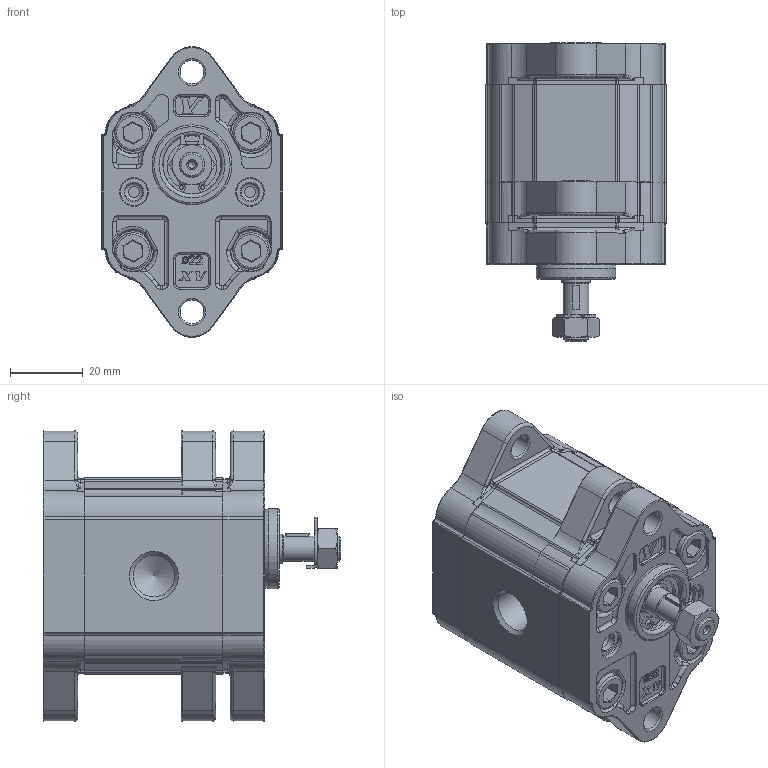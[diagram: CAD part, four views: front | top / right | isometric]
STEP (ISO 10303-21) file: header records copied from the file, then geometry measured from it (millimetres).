
FILE_DESCRIPTION( ( 'Unknown' ), '1' );
FILE_NAME( 'P:/montaggio_easy/output/STP/X0T0902ABBA.stp', 'Unknown', ( 'Unknown' ), ( 'Unknown' ), 'PSStep 14.0', 'Unknown', ' ' );
FILE_SCHEMA( ( 'AUTOMOTIVE_DESIGN { 1 0 10303 214 1 1 1 1 }' ) );
Length unit declared in the file: millimetre
Products named in the file (5): Assem1; X0T02; 0A; X0BBH38; XT001-A
Bounding box: 50 x 82 x 79.95 mm (x, y, z)
Volume: 288792.1 mm3; surface area: 79918 mm2
Topology: 8 solids, 16 shells, 2352 faces, 6142 edges, 3860 vertices
Faces by surface type: plane 922, cylinder 722, torus 298, cone 176, bspline 146, extrusion 72, sphere 16
Full cylindrical faces by diameter (mm): 1.053 x4, 2 x4, 3.233 x2, 5 x8, 6.107 x2, 6.5 x12, 7 x4, 7.16 x2, 7.25 x2, 7.5 x4, 7.9 x8, 7.92 x2, 8 x4, 9.318 x2, 10 x8, 10.445 x2, 11 x2, 11.445 x4, 14 x4, 16 x2, 16.2 x2, 16.8 x2, 22 x4
Entity records: 50298 total; most frequent: CARTESIAN_POINT 12700, DIRECTION 5921, ORIENTED_EDGE 5818, EDGE_CURVE 2909, AXIS2_PLACEMENT_3D 2275, VERTEX_POINT 1884, VECTOR 1371, EDGE_LOOP 1369
